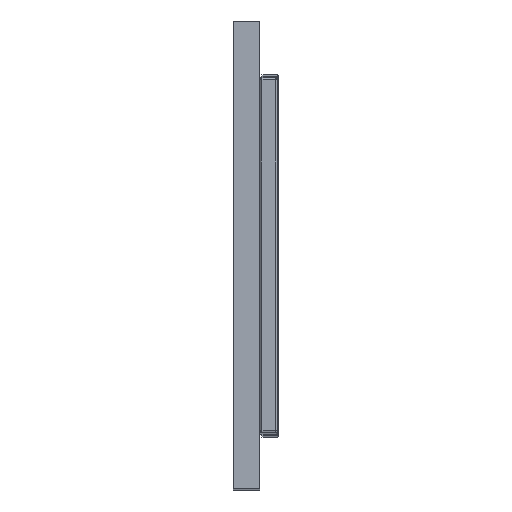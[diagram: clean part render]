
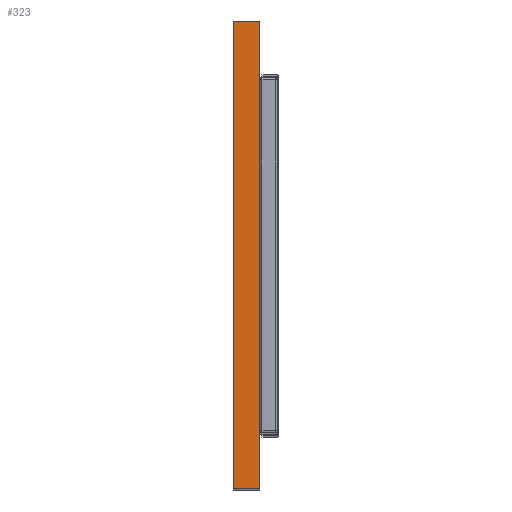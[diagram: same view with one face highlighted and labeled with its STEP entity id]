
A CAD part, top view. The second image highlights one B-rep face of the part: STEP entity #323.
In plain terms, the highlighted planar face has unit normal (0, 0, 1).
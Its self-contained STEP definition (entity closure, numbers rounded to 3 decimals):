
#192 = EDGE_CURVE ( 'NONE', #590, #611, #1704, .T. ) ;
#323 = ADVANCED_FACE ( 'NONE', ( #2731 ), #388, .F. ) ;
#369 = AXIS2_PLACEMENT_3D ( 'NONE', #2437, #2074, #2348 ) ;
#388 = PLANE ( 'NONE',  #369 ) ;
#590 = VERTEX_POINT ( 'NONE', #1455 ) ;
#596 = VERTEX_POINT ( 'NONE', #1480 ) ;
#611 = VERTEX_POINT ( 'NONE', #1511 ) ;
#714 = LINE ( 'NONE', #3473, #3605 ) ;
#951 = ORIENTED_EDGE ( 'NONE', *, *, #1658, .T. ) ;
#970 = DIRECTION ( 'NONE',  ( 0., -1., 0. ) ) ;
#979 = EDGE_CURVE ( 'NONE', #1999, #596, #714, .T. ) ;
#982 = ORIENTED_EDGE ( 'NONE', *, *, #979, .T. ) ;
#1017 = DIRECTION ( 'NONE',  ( 1., 0., 0. ) ) ;
#1184 = CARTESIAN_POINT ( 'NONE',  ( 0., 0., 192. ) ) ;
#1375 = CARTESIAN_POINT ( 'NONE',  ( 0., 0., 192. ) ) ;
#1455 = CARTESIAN_POINT ( 'NONE',  ( 0., 0., 192. ) ) ;
#1480 = CARTESIAN_POINT ( 'NONE',  ( 0., 105., 192. ) ) ;
#1511 = CARTESIAN_POINT ( 'NONE',  ( 6., 0., 192. ) ) ;
#1573 = CARTESIAN_POINT ( 'NONE',  ( 6., 105., 192. ) ) ;
#1625 = EDGE_LOOP ( 'NONE', ( #951, #3389, #2388, #982 ) ) ;
#1658 = EDGE_CURVE ( 'NONE', #596, #590, #3201, .T. ) ;
#1704 = LINE ( 'NONE', #1375, #3184 ) ;
#1785 = VECTOR ( 'NONE', #2692, 1000. ) ;
#1867 = LINE ( 'NONE', #2409, #1785 ) ;
#1999 = VERTEX_POINT ( 'NONE', #1573 ) ;
#2074 = DIRECTION ( 'NONE',  ( 0., 0., -1. ) ) ;
#2139 = EDGE_CURVE ( 'NONE', #611, #1999, #1867, .T. ) ;
#2339 = VECTOR ( 'NONE', #970, 1000. ) ;
#2348 = DIRECTION ( 'NONE',  ( -1., 0., 0. ) ) ;
#2388 = ORIENTED_EDGE ( 'NONE', *, *, #2139, .T. ) ;
#2409 = CARTESIAN_POINT ( 'NONE',  ( 6., 0., 192. ) ) ;
#2437 = CARTESIAN_POINT ( 'NONE',  ( 0., 0., 192. ) ) ;
#2692 = DIRECTION ( 'NONE',  ( 0., 1., 0. ) ) ;
#2731 = FACE_OUTER_BOUND ( 'NONE', #1625, .T. ) ;
#3184 = VECTOR ( 'NONE', #1017, 1000. ) ;
#3201 = LINE ( 'NONE', #1184, #2339 ) ;
#3389 = ORIENTED_EDGE ( 'NONE', *, *, #192, .T. ) ;
#3392 = DIRECTION ( 'NONE',  ( -1., 0., 0. ) ) ;
#3473 = CARTESIAN_POINT ( 'NONE',  ( 0., 105., 192. ) ) ;
#3605 = VECTOR ( 'NONE', #3392, 1000. ) ;
